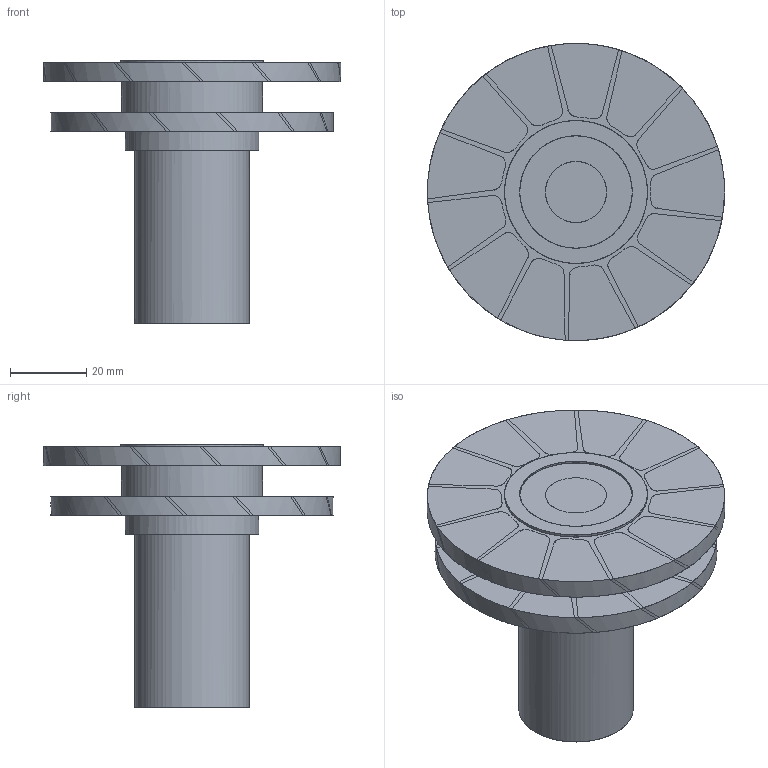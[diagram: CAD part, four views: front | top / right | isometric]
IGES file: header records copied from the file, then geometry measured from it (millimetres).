
Global section: file name: 203HD:\2019年---五轴大赛样题\2---2019五轴大赛样题 - 避免混乱\0---样题 - （修改）\2019五轴大赛样题\样题－2019年“精雕杯”五轴数控加工技能大赛（9.11）待审\附件1\IGS（样题）\工件及毛坯（样题）\工件1（样题）.igs; native system: NX V10.0; preprocessor: SIEMENS PLM Software NX 10.0; date: 20190912.085354; units: millimetre
Bounding box: 78 x 78 x 69.15 mm (x, y, z)
Surface area: 42268.2 mm2 (no closed solid volume)
Topology: 0 solids, 0 shells, 205 faces, 2687 edges, 2669 vertices
Faces by surface type: bspline 135, revolution 70
